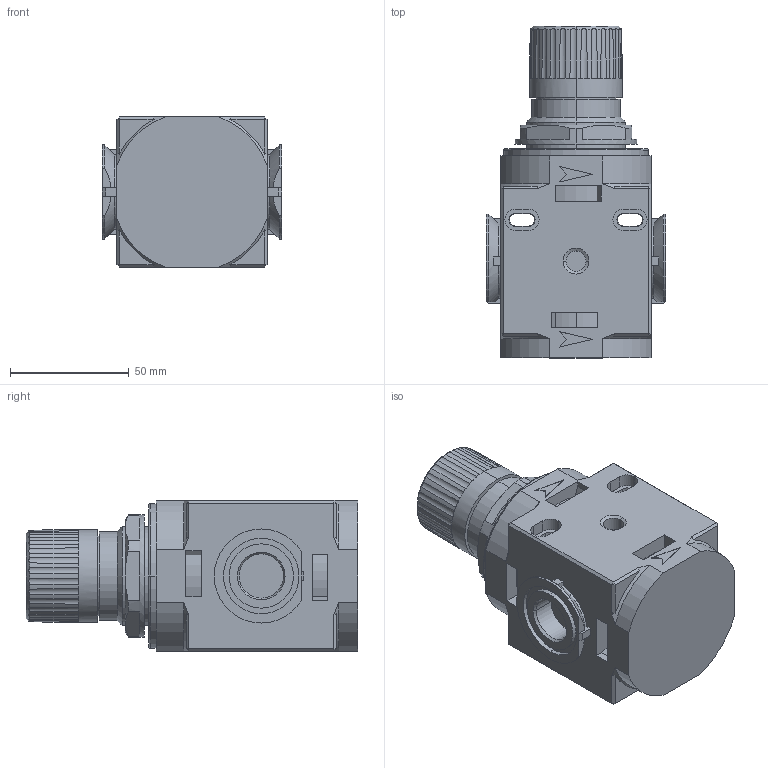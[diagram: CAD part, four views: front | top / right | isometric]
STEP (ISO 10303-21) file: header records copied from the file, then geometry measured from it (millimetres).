
FILE_DESCRIPTION (( 'STEP AP214' ), '1' );
FILE_NAME ('0751100000.STEP', '2009-03-31T09:50:50', ( ' ' ), ( '' ), 'SwSTEP 2.0', 'SolidWorks 2009', '' );
FILE_SCHEMA (( 'AUTOMOTIVE_DESIGN' ));
Length unit declared in the file: millimetre
Products named in the file (1): 0751100000
Bounding box: 75.6 x 139.7 x 63.6 mm (x, y, z)
Volume: 386161.8 mm3; surface area: 51299 mm2
Topology: 2 solids, 2 shells, 555 faces, 1380 edges, 878 vertices
Faces by surface type: plane 299, cylinder 160, cone 80, bspline 12, torus 4
Entity records: 20533 total; most frequent: CARTESIAN_POINT 4240, ORIENTED_EDGE 2756, DIRECTION 2726, EDGE_CURVE 1378, AXIS2_PLACEMENT_3D 988, VERTEX_POINT 878, VECTOR 750, LINE 750
